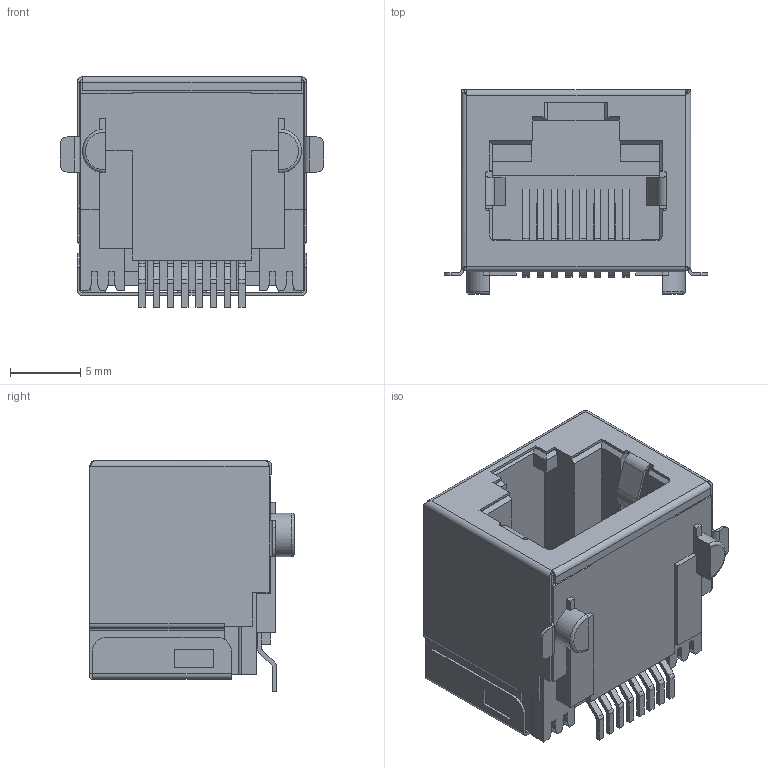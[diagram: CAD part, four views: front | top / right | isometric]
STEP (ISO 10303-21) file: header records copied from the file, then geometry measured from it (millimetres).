
FILE_DESCRIPTION((''),'2;1');
FILE_NAME('15_53D0001_ASM_1_ASM','2020-04-08T10:06:32',('Administrator'),(''),'CREO PARAMETRIC BY PTC INC, 2018400','CREO PARAMETRIC BY PTC INC, 2018400','');
FILE_SCHEMA(('CONFIG_CONTROL_DESIGN'));
Length unit declared in the file: millimetre
Products named in the file (11): MSBR-10_1_1; MSBR-3_1_1; MSBR-7_1_1; MSBR-4_1_1; MSBR-8_1_1; MSBR-1_1_1; MSBR-5_1_1; MSBR-9_1_1; MSBR-2_1_1; MSBR-6_1_1; 15_53D0001_ASM_1_ASM
Assembly tree (10 placements, depth 2):
  15_53D0001_ASM_1_ASM
    MSBR-10_1_1
    MSBR-3_1_1
    MSBR-7_1_1
    MSBR-4_1_1
    MSBR-8_1_1
    MSBR-1_1_1
    MSBR-5_1_1
    MSBR-9_1_1
    MSBR-2_1_1
    MSBR-6_1_1
Bounding box: 18.8 x 14.6 x 16.45 mm (x, y, z)
Volume: 1478.2 mm3; surface area: 4728.6 mm2
Topology: 10 solids, 10 shells, 645 faces, 1864 edges, 1218 vertices
Faces by surface type: plane 455, cylinder 174, bspline 8, torus 6, sphere 2
Entity records: 21787 total; most frequent: CARTESIAN_POINT 4407, ORIENTED_EDGE 3724, DIRECTION 3448, EDGE_CURVE 1862, VECTOR 1464, LINE 1464, VERTEX_POINT 1218, AXIS2_PLACEMENT_3D 992
